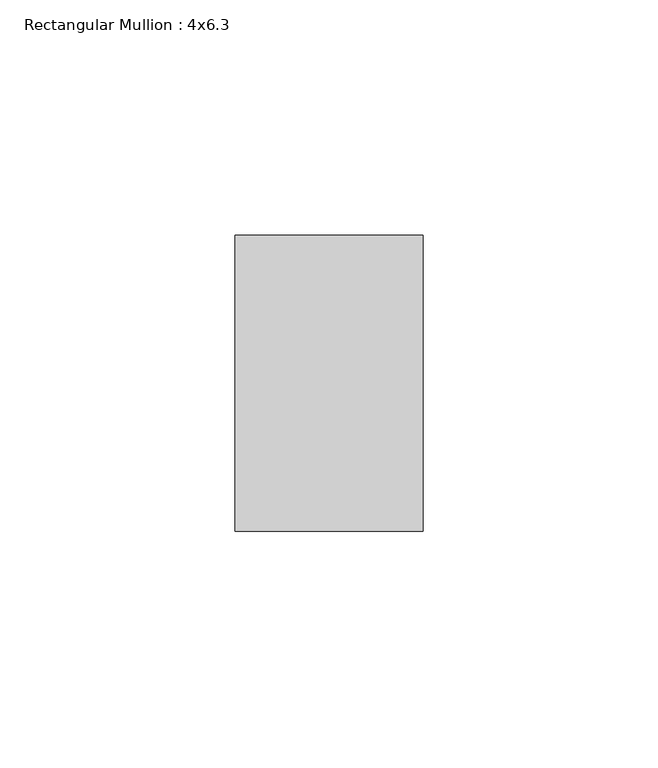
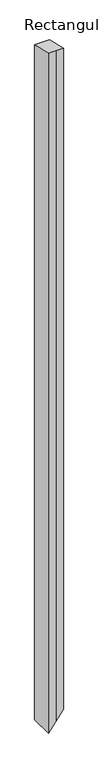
"""IFC4 building model written with IfcOpenShell, lengths in millimetres: member geometry, Rectangular Mullion : 4x6.3."""

import ifcopenshell
import ifcopenshell.guid

model = None  # the IFC model being written
_history = None  # IfcOwnerHistory: only IFC2X3 demands one
_inside = {}  # id of a spatial element -> (the spatial element, [elements in it])
_under = {}  # id of a project, library or spatial element -> (it, [spatial elements below it])
_declared = {}  # id of a project -> (the project, [libraries it declares])
_typed = {}  # id of a type object -> (the type object, [elements of that type])
_made_of = {}  # id of a material, layer set ... -> (it, [elements and type objects made of it])


def new_model(schema):
    """Start an empty IFC model of exactly this schema.

    Asked for "IFC4X3", IfcOpenShell would pick the latest addendum, in which some entities
    have other attributes; the version numbers below select the first issue.
    IFC2X3 requires an IfcOwnerHistory on every rooted entity: one is made here for all.
    """
    global model, _history
    if schema == "IFC4X3":
        model = ifcopenshell.file(schema_version=(4, 3, 0, 0))
    else:
        model = ifcopenshell.file(schema=schema)
    _inside.clear()
    _under.clear()
    _declared.clear()
    _typed.clear()
    _made_of.clear()
    _history = None
    if model.schema == "IFC2X3":
        org = make("IfcOrganization", Name="unknown")
        user = make(
            "IfcPersonAndOrganization",
            ThePerson=make("IfcPerson", FamilyName="unknown"),
            TheOrganization=org,
        )
        app = make(
            "IfcApplication",
            ApplicationDeveloper=org,
            Version="unknown",
            ApplicationFullName="unknown",
            ApplicationIdentifier="unknown",
        )
        _history = make(
            "IfcOwnerHistory",
            OwningUser=user,
            OwningApplication=app,
            ChangeAction="ADDED",
            CreationDate=0,
        )
    return model


def make(cls, **values):
    """One entity of the class cls with the attributes given. An attribute that is None is left unset."""
    return model.create_entity(
        cls, **{name: value for name, value in values.items() if value is not None}
    )


def rooted(cls, **values):
    """An entity with a GlobalId (a new one), such as an element, a storey or a relation."""
    return make(cls, GlobalId=ifcopenshell.guid.new(), OwnerHistory=_history, **values)


def si_unit(unit_type, name, prefix=None):
    """IfcSIUnit, for example si_unit("LENGTHUNIT", "METRE", prefix="MILLI")."""
    return make("IfcSIUnit", UnitType=unit_type, Prefix=prefix, Name=name)


def assignment(units):
    """IfcUnitAssignment: the units of a project."""
    return None if units is None else make("IfcUnitAssignment", Units=units)


def point(xyz):
    """IfcCartesianPoint."""
    return None if xyz is None else make("IfcCartesianPoint", Coordinates=xyz)


def direction(xyz):
    """IfcDirection."""
    return None if xyz is None else make("IfcDirection", DirectionRatios=xyz)


def frame(location, z_axis=None, x_axis=None):
    """IfcAxis2Placement3D, a coordinate frame: its origin and axes. An axis left out is left unset."""
    return make(
        "IfcAxis2Placement3D",
        Location=point(location),
        Axis=direction(z_axis),
        RefDirection=direction(x_axis),
    )


def origin():
    """The frame at (0, 0, 0) with its axes left unset."""
    return frame((0.0, 0.0, 0.0))


def place(relative_to, where):
    """IfcLocalPlacement: puts the frame where relative to a parent placement (None: the world)."""
    return make(
        "IfcLocalPlacement", PlacementRelTo=relative_to, RelativePlacement=where
    )


def context(
    kind, dimensions, precision=None, world=None, true_north=None, identifier=None
):
    """IfcGeometricRepresentationContext, for example the 3D "Model" context."""
    return make(
        "IfcGeometricRepresentationContext",
        ContextIdentifier=identifier,
        ContextType=kind,
        CoordinateSpaceDimension=dimensions,
        Precision=precision,
        WorldCoordinateSystem=world,
        TrueNorth=true_north,
    )


def project(units=None, contexts=None):
    """IfcProject with its units and contexts."""
    return rooted(
        "IfcProject",
        Name="project",
        RepresentationContexts=contexts,
        UnitsInContext=assignment(units),
    )


def spatial(cls, under=None, at=None, **own):
    """A site, building, storey or space (cls), placed at a placement, below another one or the project."""
    s = rooted(cls, ObjectPlacement=at, **own)
    if under is not None:
        _under.setdefault(under.id(), (under, []))[1].append(s)
    return s


def faces_of(points, faces, orient=None, outer=None):
    """IfcFace entities. A face is a list of loops; a loop is a list of indices into points, from 0.

    orient and outer hold one flag for each loop. By default every Orientation is true, the
    first loop of a face is its IfcFaceOuterBound and the others are IfcFaceBound.
    """
    made = []
    for i, loops in enumerate(faces):
        bounds = []
        for j, loop in enumerate(loops):
            is_outer = j == 0 if outer is None else outer[i][j]
            bounds.append(
                make(
                    "IfcFaceOuterBound" if is_outer else "IfcFaceBound",
                    Bound=make("IfcPolyLoop", Polygon=[points[k] for k in loop]),
                    Orientation=True if orient is None else orient[i][j],
                )
            )
        made.append(make("IfcFace", Bounds=bounds))
    return made


def faceted_brep(points, faces, orient=None, outer=None, voids=None):
    """IfcFacetedBrep: a solid bounded by flat faces; with voids (closed shells), ...WithVoids."""
    shared = [point(p) for p in points]
    hull = make("IfcClosedShell", CfsFaces=faces_of(shared, faces, orient, outer))
    if voids is None:
        return make("IfcFacetedBrep", Outer=hull)
    return make(
        "IfcFacetedBrepWithVoids",
        Outer=hull,
        Voids=[
            make(cls, CfsFaces=faces_of(shared, fs, o, b)) for cls, fs, o, b in voids
        ],
    )


def shape(context_of_items, identifier, shape_type, items):
    """IfcShapeRepresentation: the items that make up one representation, for example the "Body"."""
    return make(
        "IfcShapeRepresentation",
        ContextOfItems=context_of_items,
        RepresentationIdentifier=identifier,
        RepresentationType=shape_type,
        Items=items,
    )


def source(mapping_origin, context_of_items, identifier, shape_type, items):
    """IfcRepresentationMap: a shape defined once, which mapped items show again and again."""
    return make(
        "IfcRepresentationMap",
        MappingOrigin=mapping_origin,
        MappedRepresentation=shape(context_of_items, identifier, shape_type, items),
    )


def transform(
    local_origin,
    x_axis=None,
    y_axis=None,
    z_axis=None,
    scale=None,
    scale2=None,
    scale3=None,
    uniform=True,
):
    """IfcCartesianTransformationOperator3D, or its non-uniform kind. x_axis, y_axis, z_axis: its Axis1, 2, 3."""
    if uniform:
        return make(
            "IfcCartesianTransformationOperator3D",
            Axis1=direction(x_axis),
            Axis2=direction(y_axis),
            LocalOrigin=point(local_origin),
            Scale=scale,
            Axis3=direction(z_axis),
        )
    return make(
        "IfcCartesianTransformationOperator3DnonUniform",
        Axis1=direction(x_axis),
        Axis2=direction(y_axis),
        LocalOrigin=point(local_origin),
        Scale=scale,
        Axis3=direction(z_axis),
        Scale2=scale2,
        Scale3=scale3,
    )


def mapped(mapping_source, mapping_target):
    """IfcMappedItem: shows the shape of a source again, moved by a transform."""
    return make(
        "IfcMappedItem", MappingSource=mapping_source, MappingTarget=mapping_target
    )


def made_of(thing, what):
    """Note that an element or type object is made of a material, layer set ...; save() writes the relation."""
    if what is not None:
        _made_of.setdefault(what.id(), (what, []))[1].append(thing)
    return thing


def element(
    cls,
    number,
    at=None,
    inside=None,
    cuts=None,
    type_object=None,
    material=None,
    context=None,
    identifier="Body",
    shape_type=None,
    held_by="IfcProductDefinitionShape",
    body=None,
    shapes=None,
    **own,
):
    """One element of the class cls, such as IfcWall. Its Tag is "e" and its number.

    at: its placement. inside: the storey or other place that contains it. cuts: it is an
    opening in that element (IfcRelVoidsElement). A single representation is given by context,
    identifier, shape_type and body (its items); several are given by shapes. held_by: the class
    of the entity that holds the representations. save() writes the other relations.
    """
    e = rooted(cls, Tag="e%d" % number, ObjectPlacement=at, **own)
    if body is not None:
        shapes = [shape(context, identifier, shape_type, body)]
    if shapes is not None:
        e.Representation = make(held_by, Representations=shapes)
    if inside is not None:
        _inside.setdefault(inside.id(), (inside, []))[1].append(e)
    if cuts is not None:
        rooted(
            "IfcRelVoidsElement", RelatingBuildingElement=cuts, RelatedOpeningElement=e
        )
    if type_object is not None:
        _typed.setdefault(type_object.id(), (type_object, []))[1].append(e)
    return made_of(e, material)


def aggregate(whole, parts):
    """IfcRelAggregates: a whole, such as a stair, and the parts it consists of."""
    return rooted("IfcRelAggregates", RelatingObject=whole, RelatedObjects=parts)


def save(model, path):
    """Write the relations noted so far, then the file.

    IfcRelAggregates (storeys below a building ...), IfcRelContainedInSpatialStructure (elements
    in a storey), IfcRelDefinesByType, IfcRelAssociatesMaterial and IfcRelDeclares: one each for
    every whole, place, type object, material and project.
    """
    for whole, parts in _under.values():
        aggregate(whole, parts)
    for where, things in _inside.values():
        rooted(
            "IfcRelContainedInSpatialStructure",
            RelatedElements=things,
            RelatingStructure=where,
        )
    for kind, things in _typed.values():
        rooted("IfcRelDefinesByType", RelatedObjects=things, RelatingType=kind)
    for what, things in _made_of.values():
        rooted("IfcRelAssociatesMaterial", RelatedObjects=things, RelatingMaterial=what)
    for by, libraries in _declared.values():
        rooted("IfcRelDeclares", RelatingContext=by, RelatedDefinitions=libraries)
    model.write(path)


def rectangular_mullion_4x6_3_957435d6(model_context):
    return source(origin(), model_context, "Body", "Brep", [
        faceted_brep([(0.0, 20.0, -4.3995804), (-20.0, 20.0, -4.3995804), (-20.0, 20.0, -1921.5980618), (0.0, 20.0, -1895.1773048), (20.0, 20.0, -4.3995804), (20.0, 20.0, -1868.7565479), (20.0, 83.0, -18.2582585), (20.0, 83.0, -1868.7565479), (-20.0, 83.0, -18.2582585), (-20.0, 83.0, -1921.5980618)], [[[0, 1, 2, 3]], [[4, 0, 3, 5]], [[6, 4, 5, 7]], [[8, 6, 7, 9]], [[1, 8, 9, 2]], [[1, 0, 4, 6, 8]], [[2, 9, 7, 5, 3]]]),
    ])


if __name__ == "__main__":
    model = new_model("IFC4")
    model_context = context("Model", 3, world=origin())
    ifc_project = project(units=[si_unit("LENGTHUNIT", "METRE", prefix="MILLI")], contexts=[model_context])
    site = spatial("IfcSite", under=ifc_project)
    building = spatial("IfcBuilding", under=site)
    placement = place(None, origin())
    rectangular_mullion_4x6_3_shape = rectangular_mullion_4x6_3_957435d6(model_context)
    element("IfcMember", 1, ObjectType="Rectangular Mullion : 4x6.3", at=placement, inside=building, context=model_context, shape_type="MappedRepresentation", body=[
        mapped(rectangular_mullion_4x6_3_shape, transform((0.0, 0.0, 0.0), x_axis=(1.0, 0.0, 0.0), y_axis=(0.0, 1.0, 0.0), z_axis=(0.0, 0.0, 1.0))),
    ])
    save(model, "model.ifc")
